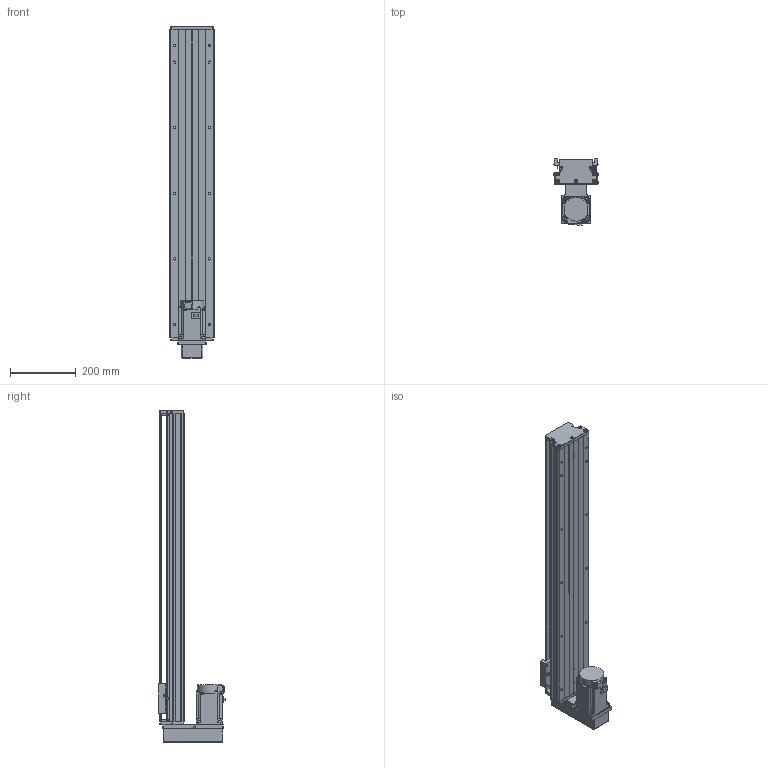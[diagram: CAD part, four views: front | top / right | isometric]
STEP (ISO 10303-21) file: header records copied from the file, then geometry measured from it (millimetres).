
FILE_DESCRIPTION (( 'STEP AP203' ), '1' );
FILE_NAME ('KTH130-800-BM-M75-C4.step', '2023-06-30T04:38:46', ( '微软用户' ), ( '微软中国' ), 'SwSTEP 2.0', 'SolidWorks 2020', '' );
FILE_SCHEMA (( 'CONFIG_CONTROL_DESIGN' ));
Length unit declared in the file: millimetre
Products named in the file (18): KTH130-002_KTH130-002; EE_SX911P_R; CTHA86-015-3_CTHA86-015-4; KTH130-004; CTHA60-016; CTHA86-035; KTH130-005; GBT 70.1-M3℅5; KTH130-800-BM-M75-C4; GB1155-6X6; GBT77-2000 M3×3; GBT70.1 M5℅16; す晦芛蹟隊 M3℅5; GBT 70.2-M3¡Á5_M3¡Á6; GBT 70.3-M3℅8; GTH14-001_800; CTHA60-017; hg-kn73j_-s100
Assembly tree (49 placements, depth 2):
  KTH130-800-BM-M75-C4
    GTH14-001_800
    KTH130-002_KTH130-002
    KTH130-004
    KTH130-005
    GB1155-6X6  x2
    GBT70.1 M5℅16  x10
    GBT 70.2-M3¡Á5_M3¡Á6  x4
    CTHA60-017  x3
    EE_SX911P_R  x3
    CTHA60-016  x2
    GBT 70.1-M3℅5  x6
    GBT77-2000 M3×3  x6
    す晦芛蹟隊 M3℅5  x2
    GBT 70.3-M3℅8  x4
    hg-kn73j_-s100
    CTHA86-015-3_CTHA86-015-4
    CTHA86-035
Bounding box: 135 x 202.8 x 1012 mm (x, y, z)
Volume: 6486795.7 mm3; surface area: 933207.4 mm2
Topology: 52 solids, 52 shells, 2202 faces, 5340 edges, 3343 vertices
Faces by surface type: plane 1210, cylinder 638, cone 238, torus 100, sphere 16
Entity records: 40253 total; most frequent: CARTESIAN_POINT 6772, DIRECTION 6637, ORIENTED_EDGE 6184, EDGE_CURVE 3092, AXIS2_PLACEMENT_3D 2326, VECTOR 1985, LINE 1985, VERTEX_POINT 1977
